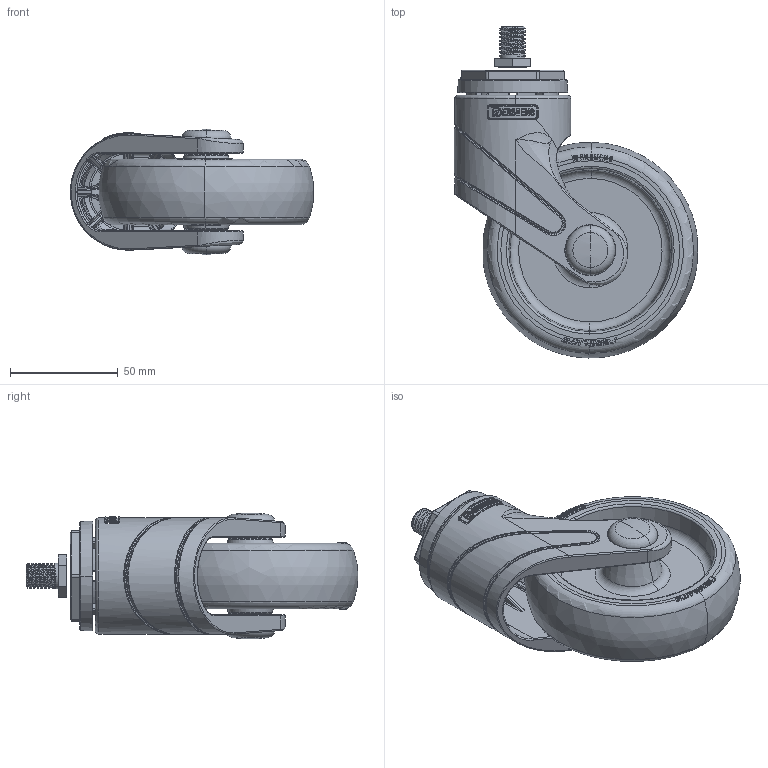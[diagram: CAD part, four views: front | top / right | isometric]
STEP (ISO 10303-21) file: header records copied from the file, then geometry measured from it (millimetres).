
FILE_DESCRIPTION((''),'2;1');
FILE_NAME('PRT0016','2025-12-17T14:22:15',('Administrator'),(''),'CREO PARAMETRIC BY PTC INC, 2022124','CREO PARAMETRIC BY PTC INC, 2022124','');
FILE_SCHEMA(('AUTOMOTIVE_DESIGN { 1 0 10303 214 1 1 1 1 }'));
Products named in the file (1): PRT0016
Bounding box: 112.76 x 154 x 58.39 mm (x, y, z)
Surface area: 62864.1 mm2 (no closed solid volume)
Topology: 0 solids, 63 shells, 524 faces, 2715 edges, 2185 vertices
Faces by surface type: bspline 148, cylinder 121, plane 109, torus 108, cone 33, sphere 5
Entity records: 46951 total; most frequent: CARTESIAN_POINT 25334, ORIENTED_EDGE 3556, DIRECTION 2874, EDGE_CURVE 2711, VERTEX_POINT 2185, B_SPLINE_CURVE_WITH_KNOTS 1348, AXIS2_PLACEMENT_3D 1122, CIRCLE 736
